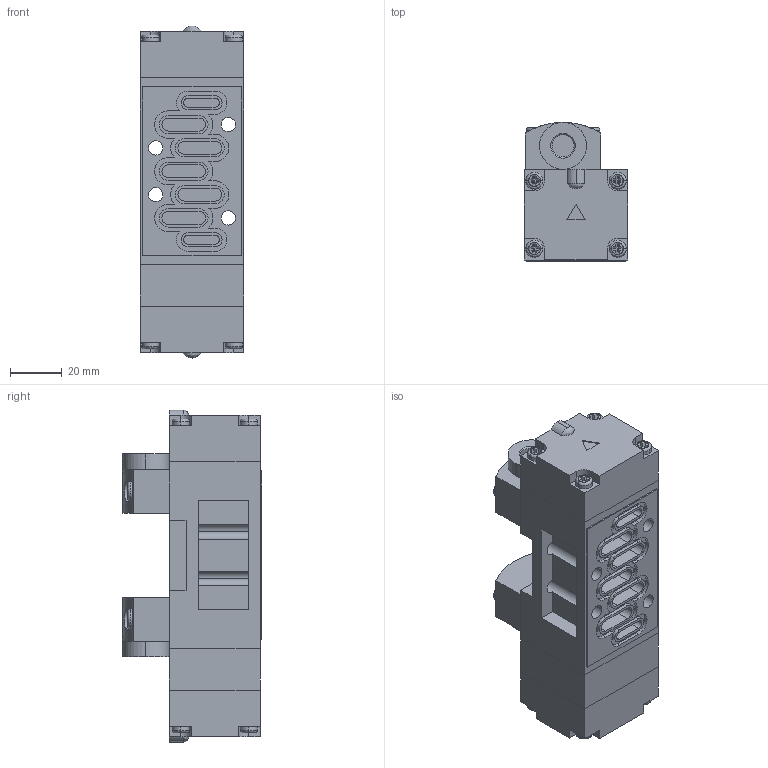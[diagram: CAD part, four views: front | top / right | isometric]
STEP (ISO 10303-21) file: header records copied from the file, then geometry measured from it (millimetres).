
FILE_DESCRIPTION (( 'STEP AP203' ), '1' );
FILE_NAME ('VB1-F-P.STEP', '2017-06-02T20:13:24', ( '' ), ( '' ), 'SwSTEP 2.0', 'SolidWorks 2016', '' );
FILE_SCHEMA (( 'CONFIG_CONTROL_DESIGN' ));
Length unit declared in the file: millimetre
Products named in the file (5): VB1-F-P Body_ﾃﾑ-ﾏ; VB1-F-P Block Guide_ﾃﾑ-ﾏ; VB1-F-P Pilot_ﾃﾑ-ﾏ; VB1-F-P Semi Pilot_ﾃﾑ-ﾏ; VB1-F-P
Assembly tree (6 placements, depth 2):
  VB1-F-P
    VB1-F-P Body_ﾃﾑ-ﾏ
    VB1-F-P Block Guide_ﾃﾑ-ﾏ
    VB1-F-P Pilot_ﾃﾑ-ﾏ  x2
    VB1-F-P Semi Pilot_ﾃﾑ-ﾏ  x2
Bounding box: 40 x 53.6 x 128 mm (x, y, z)
Volume: 166319.1 mm3; surface area: 44831.4 mm2
Topology: 6 solids, 8 shells, 571 faces, 1531 edges, 1010 vertices
Faces by surface type: plane 408, cylinder 129, bspline 30, cone 4
Entity records: 12961 total; most frequent: CARTESIAN_POINT 2862, ORIENTED_EDGE 2054, DIRECTION 1897, EDGE_CURVE 1027, VERTEX_POINT 682, VECTOR 659, LINE 659, AXIS2_PLACEMENT_3D 619
